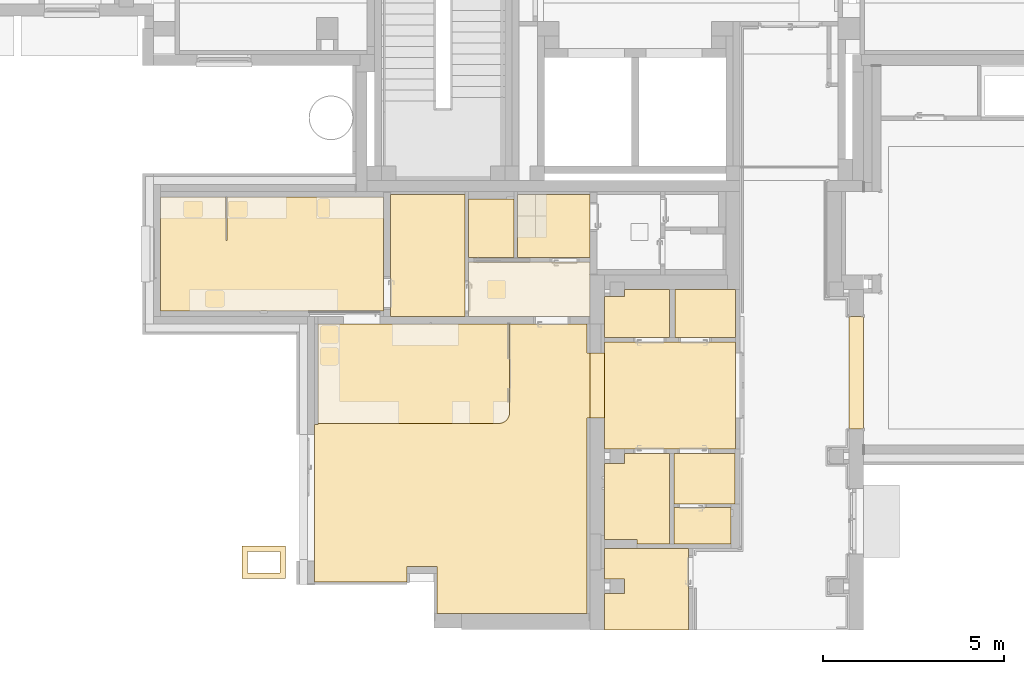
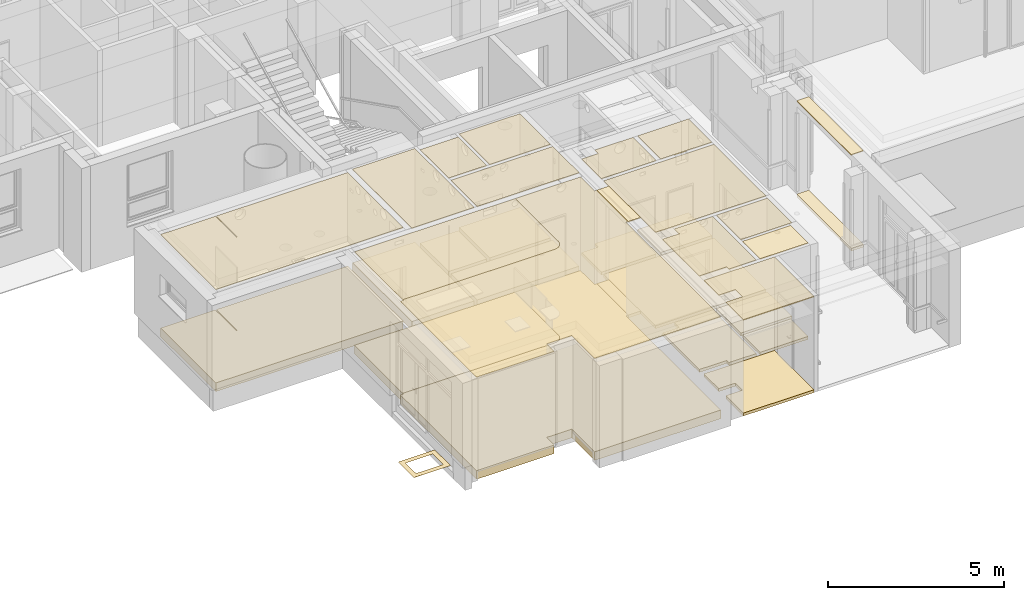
# One storey, part 128 of 140: 33 coverings.
"""IFC4 building model written with IfcOpenShell, lengths in metres."""

from ifc_helpers import new_model, entity, si_unit, converted_unit, derived_unit, frame, frame_2d, origin, origin_with_axes, place, context, subcontext, project, spatial, polyline, rectangle, outline, extrude, material, layer, layer_set, layer_usage, element, save


model = new_model("IFC4")

# Units and contexts
model_context = context("Model", 3, precision=1e-05, world=origin())
body_context = subcontext(model_context, "Body", "Model", "MODEL_VIEW")
ifc_project = project(units=[si_unit("LENGTHUNIT", "METRE"), si_unit("AREAUNIT", "SQUARE_METRE"), si_unit("VOLUMEUNIT", "CUBIC_METRE"), si_unit("MASSUNIT", "GRAM", prefix="KILO"), converted_unit("PLANEANGLEUNIT", "DEGREE", entity("IfcPlaneAngleMeasure", 0.0174532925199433), si_unit("PLANEANGLEUNIT", "RADIAN"), dimensions=[0, 0, 0, 0, 0, 0, 0]), derived_unit("THERMALTRANSMITTANCEUNIT", [(si_unit("POWERUNIT", "WATT"), 1), (si_unit("THERMODYNAMICTEMPERATUREUNIT", "KELVIN"), -1), (si_unit("LENGTHUNIT", "METRE"), -2)]), derived_unit("VOLUMETRICFLOWRATEUNIT", [(si_unit("LENGTHUNIT", "METRE"), 3), (converted_unit("TIMEUNIT", "hour", entity("IfcTimeMeasure", 3600.0), si_unit("TIMEUNIT", "SECOND"), dimensions=[0, 0, 1, 0, 0, 0, 0]), -1), (si_unit("LENGTHUNIT", "METRE"), -1)])], contexts=[model_context])

# Site, building, storey
site_placement = place(None, origin())
site = spatial("IfcSite", under=ifc_project, at=site_placement, Name="3. ASŘ", CompositionType="ELEMENT")
building_placement = place(site_placement, origin())
building = spatial("IfcBuilding", under=site, at=building_placement, Name="Pavilon C", CompositionType="ELEMENT")
storey_placement = place(building_placement, origin())
storey = spatial("IfcBuildingStorey", under=building, at=storey_placement, Name="Půdorys 1.NP", CompositionType="ELEMENT", Elevation=0.0)

# Covering
ifc_material_1 = material(Name="SANACE BETONU")
ifc_layer_1 = layer(ifc_material_1, 0.003)
ifc_layer_set_1 = layer_set([ifc_layer_1])
ifc_layer_usage_1 = layer_usage(ifc_layer_set_1, "AXIS3", "POSITIVE", 0.0)
covering_1_placement = place(storey_placement, frame((27.1981868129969, -15.1834392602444, 0.4)))
element("IfcCovering", 1, at=covering_1_placement, inside=storey, material=ifc_layer_usage_1, PredefinedType="FLOORING", context=body_context, shape_type="SweptSolid", body=[
    extrude(outline(polyline([(0.0, 0.0), (1.2, 0.0), (1.2, 0.9), (0.0, 0.9), (0.0, 0.0)]), holes=[polyline([(0.15, 0.75), (1.05, 0.75), (1.05, 0.15), (0.15, 0.15), (0.15, 0.75)])]), origin_with_axes(), (0.0, 0.0, 1.0), 0.003),
])

# Space
space_1_placement = place(storey_placement, frame((24.95, -7.80000000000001, -0.3)))
space_1 = spatial("IfcSpace", under=storey, at=space_1_placement, Name="K1.09", CompositionType="ELEMENT")

# Coverings
ifc_material_2 = material()
ifc_layer_2 = layer(ifc_material_2, 0.285)
ifc_material_3 = material(Name="KERAMICKÁ DLAŽBA")
ifc_layer_3 = layer(ifc_material_3, 0.015)
ifc_layer_set_2 = layer_set([ifc_layer_2, ifc_layer_3])
ifc_layer_usage_2 = layer_usage(ifc_layer_set_2, "AXIS3", "POSITIVE", 0.0)
covering_2_placement = place(space_1_placement, origin())
element("IfcCovering", 2, at=covering_2_placement, inside=space_1, material=ifc_layer_usage_2, PredefinedType="FLOORING", context=body_context, shape_type="SweptSolid", body=[
    extrude(outline(polyline([(1.8, 3.14999999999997), (0.0, 3.15000000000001), (3.63797880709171e-15, 0.0), (6.15, 0.0), (6.15, 3.14999999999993), (1.832, 3.14999999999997), (1.832, 1.94999999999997), (1.8, 1.94999999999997), (1.8, 3.14999999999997)])), origin_with_axes(), (0.0, 0.0, 1.0), 0.3),
])
ifc_material_4 = material(Name="RASTR 1")
ifc_layer_4 = layer(ifc_material_4, 0.03)
ifc_layer_set_3 = layer_set([ifc_layer_4])
ifc_layer_usage_3 = layer_usage(ifc_layer_set_3, "AXIS3", "POSITIVE", 0.0)
covering_3_placement = place(space_1_placement, frame((0.0, 0.0, 3.55)))
element("IfcCovering", 3, at=covering_3_placement, inside=space_1, material=ifc_layer_usage_3, PredefinedType="CEILING", context=body_context, shape_type="SweptSolid", body=[
    extrude(outline(polyline([(0.0, 0.0), (1.8, 3.45607986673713e-14), (1.8, 1.20000000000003), (1.832, 1.20000000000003), (1.832, 3.45607986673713e-14), (6.15, 8.09450284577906e-14), (6.15, 3.15000000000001), (3.63797880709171e-15, 3.15000000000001), (0.0, 0.0)])), frame((0.0, 3.15000000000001, 0.0), z_axis=(0.0, 0.0, -1.0), x_axis=(1.0, 0.0, 0.0)), (0.0, 0.0, 1.0), 0.03),
])

# Space
space_2_placement = place(storey_placement, frame((31.3, -7.94999999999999, -0.3)))
space_2 = spatial("IfcSpace", under=storey, at=space_2_placement, Name="K1.10", CompositionType="ELEMENT")

# Coverings
ifc_material_5 = material()
ifc_layer_5 = layer(ifc_material_5, 0.285)
ifc_material_6 = material(Name="KERAMICKÁ DLAŽBA")
ifc_layer_6 = layer(ifc_material_6, 0.015)
ifc_layer_set_4 = layer_set([ifc_layer_5, ifc_layer_6])
ifc_layer_usage_4 = layer_usage(ifc_layer_set_4, "AXIS3", "POSITIVE", 0.0)
covering_4_placement = place(space_2_placement, origin())
element("IfcCovering", 4, at=covering_4_placement, inside=space_2, material=ifc_layer_usage_4, PredefinedType="FLOORING", context=body_context, shape_type="SweptSolid", body=[
    extrude(rectangle(XDim=2.05000000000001, YDim=3.3749999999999, at=frame_2d((-1.025, -1.68749999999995), x_axis=(-1.0, 0.0))), frame((2.05000000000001, 3.3749999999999, 0.0), z_axis=(0.0, 0.0, 1.0), x_axis=(1.0, 0.0, 0.0)), (0.0, 0.0, 1.0), 0.3),
])
ifc_material_7 = material(Name="RASTR 2")
ifc_layer_7 = layer(ifc_material_7, 0.03)
ifc_layer_set_5 = layer_set([ifc_layer_7])
ifc_layer_usage_5 = layer_usage(ifc_layer_set_5, "AXIS3", "POSITIVE", 0.0)
covering_5_placement = place(space_2_placement, frame((0.0, 0.0, 3.55)))
element("IfcCovering", 5, at=covering_5_placement, inside=space_2, material=ifc_layer_usage_5, PredefinedType="CEILING", context=body_context, shape_type="SweptSolid", body=[
    extrude(rectangle(XDim=2.05000000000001, YDim=3.3749999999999, at=frame_2d((1.025, 1.68749999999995), x_axis=(1.0, 0.0))), frame((0.0, 3.3749999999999, 0.0), z_axis=(0.0, 0.0, -1.0), x_axis=(1.0, 0.0, 0.0)), (0.0, 0.0, 1.0), 0.03),
])

# Space
space_3_placement = place(storey_placement, frame((33.45, -6.325, -0.3)))
space_3 = spatial("IfcSpace", under=storey, at=space_3_placement, Name="K1.12", CompositionType="ELEMENT")

# Coverings
ifc_material_8 = material()
ifc_layer_8 = layer(ifc_material_8, 0.285)
ifc_material_9 = material(Name="KERAMICKÁ DLAŽBA")
ifc_layer_9 = layer(ifc_material_9, 0.015)
ifc_layer_set_6 = layer_set([ifc_layer_8, ifc_layer_9])
ifc_layer_usage_6 = layer_usage(ifc_layer_set_6, "AXIS3", "POSITIVE", 0.0)
covering_6_placement = place(space_3_placement, origin())
element("IfcCovering", 6, at=covering_6_placement, inside=space_3, material=ifc_layer_usage_6, PredefinedType="FLOORING", context=body_context, shape_type="SweptSolid", body=[
    extrude(rectangle(XDim=1.25, YDim=1.62500000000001, at=frame_2d((-0.625, -0.812500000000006), x_axis=(-1.0, 0.0))), frame((1.25, 1.62500000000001, 0.0), z_axis=(0.0, 0.0, 1.0), x_axis=(1.0, 0.0, 0.0)), (0.0, 0.0, 1.0), 0.3),
])
ifc_material_10 = material(Name="RASTR 2")
ifc_layer_10 = layer(ifc_material_10, 0.03)
ifc_layer_set_7 = layer_set([ifc_layer_10])
ifc_layer_usage_7 = layer_usage(ifc_layer_set_7, "AXIS3", "POSITIVE", 0.0)
covering_7_placement = place(space_3_placement, frame((0.0, 0.0, 3.55)))
element("IfcCovering", 7, at=covering_7_placement, inside=space_3, material=ifc_layer_usage_7, PredefinedType="CEILING", context=body_context, shape_type="SweptSolid", body=[
    extrude(rectangle(XDim=1.25, YDim=1.62500000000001, at=frame_2d((0.625, 0.812500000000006), x_axis=(1.0, 0.0))), frame((0.0, 1.62500000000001, 0.0), z_axis=(0.0, 0.0, -1.0), x_axis=(1.0, 0.0, 0.0)), (0.0, 0.0, 1.0), 0.03),
])

# Space
space_4_placement = place(storey_placement, frame((33.45, -7.95, -0.3)))
space_4 = spatial("IfcSpace", under=storey, at=space_4_placement, Name="K1.11", CompositionType="ELEMENT")

# Coverings
ifc_material_11 = material()
ifc_layer_11 = layer(ifc_material_11, 0.285)
ifc_material_12 = material(Name="KERAMICKÁ DLAŽBA")
ifc_layer_12 = layer(ifc_material_12, 0.015)
ifc_layer_set_8 = layer_set([ifc_layer_11, ifc_layer_12])
ifc_layer_usage_8 = layer_usage(ifc_layer_set_8, "AXIS3", "POSITIVE", 0.0)
covering_8_placement = place(space_4_placement, origin())
element("IfcCovering", 8, at=covering_8_placement, inside=space_4, material=ifc_layer_usage_8, PredefinedType="FLOORING", context=body_context, shape_type="SweptSolid", body=[
    extrude(rectangle(XDim=3.35, YDim=1.5, at=frame_2d((-1.675, -0.75), x_axis=(-1.0, 0.0))), frame((3.35, 1.5, 0.0), z_axis=(0.0, 0.0, 1.0), x_axis=(1.0, 0.0, 0.0)), (0.0, 0.0, 1.0), 0.3),
])
ifc_material_13 = material(Name="RASTR 2")
ifc_layer_13 = layer(ifc_material_13, 0.03)
ifc_layer_set_9 = layer_set([ifc_layer_13])
ifc_layer_usage_9 = layer_usage(ifc_layer_set_9, "AXIS3", "POSITIVE", 0.0)
covering_9_placement = place(space_4_placement, frame((0.0, 0.0, 3.55)))
element("IfcCovering", 9, at=covering_9_placement, inside=space_4, material=ifc_layer_usage_9, PredefinedType="CEILING", context=body_context, shape_type="SweptSolid", body=[
    extrude(rectangle(XDim=3.35, YDim=1.5, at=frame_2d((1.675, 0.75), x_axis=(1.0, 0.0))), frame((0.0, 1.5, 0.0), z_axis=(0.0, 0.0, -1.0), x_axis=(1.0, 0.0, 0.0)), (0.0, 0.0, 1.0), 0.03),
])

# Space
space_5_placement = place(storey_placement, frame((34.8, -6.325, -0.3)))
space_5 = spatial("IfcSpace", under=storey, at=space_5_placement, Name="K1.13", CompositionType="ELEMENT")

# Coverings
ifc_material_14 = material()
ifc_layer_14 = layer(ifc_material_14, 0.285)
ifc_material_15 = material(Name="KERAMICKÁ DLAŽBA")
ifc_layer_15 = layer(ifc_material_15, 0.015)
ifc_layer_set_10 = layer_set([ifc_layer_14, ifc_layer_15])
ifc_layer_usage_10 = layer_usage(ifc_layer_set_10, "AXIS3", "POSITIVE", 0.0)
covering_10_placement = place(space_5_placement, origin())
element("IfcCovering", 10, at=covering_10_placement, inside=space_5, material=ifc_layer_usage_10, PredefinedType="FLOORING", context=body_context, shape_type="SweptSolid", body=[
    extrude(rectangle(XDim=2.0, YDim=1.75, at=frame_2d((-1.0, -0.874999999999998), x_axis=(-1.0, 0.0))), frame((2.0, 1.75, 0.0), z_axis=(0.0, 0.0, 1.0), x_axis=(1.0, 0.0, 0.0)), (0.0, 0.0, 1.0), 0.3),
])
ifc_material_16 = material(Name="RASTR 2")
ifc_layer_16 = layer(ifc_material_16, 0.03)
ifc_layer_set_11 = layer_set([ifc_layer_16])
ifc_layer_usage_11 = layer_usage(ifc_layer_set_11, "AXIS3", "POSITIVE", 0.0)
covering_11_placement = place(space_5_placement, frame((0.0, 0.0, 3.55)))
element("IfcCovering", 11, at=covering_11_placement, inside=space_5, material=ifc_layer_usage_11, PredefinedType="CEILING", context=body_context, shape_type="SweptSolid", body=[
    extrude(rectangle(XDim=2.0, YDim=1.75, at=frame_2d((1.0, 0.874999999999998), x_axis=(1.0, 0.0))), frame((0.0, 1.75, 0.0), z_axis=(0.0, 0.0, -1.0), x_axis=(1.0, 0.0, 0.0)), (0.0, 0.0, 1.0), 0.03),
])

# Space
space_6_placement = place(storey_placement, frame((37.2, -11.6, -0.1)))
space_6 = spatial("IfcSpace", under=storey, at=space_6_placement, Name="K1.01", CompositionType="ELEMENT")

# Coverings
ifc_material_17 = material()
ifc_layer_17 = layer(ifc_material_17, 0.095)
ifc_material_18 = material(Name="AKUSTICKÝ VINYL")
ifc_layer_18 = layer(ifc_material_18, 0.005)
ifc_layer_set_12 = layer_set([ifc_layer_17, ifc_layer_18])
ifc_layer_usage_12 = layer_usage(ifc_layer_set_12, "AXIS3", "POSITIVE", 0.0)
covering_12_placement = place(space_6_placement, frame((0.0, -1.81898940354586e-15, 0.0)))
element("IfcCovering", 12, at=covering_12_placement, inside=space_6, material=ifc_layer_usage_12, PredefinedType="FLOORING", context=body_context, shape_type="SweptSolid", body=[
    extrude(rectangle(XDim=3.625, YDim=2.95000000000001, at=frame_2d((-1.8125, -1.475), x_axis=(-1.0, 0.0))), frame((3.625, 2.95000000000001, 0.0), z_axis=(0.0, 0.0, 1.0), x_axis=(1.0, 0.0, 0.0)), (0.0, 0.0, 1.0), 0.1),
])
ifc_material_19 = material(Name="MALBA")
ifc_layer_19 = layer(ifc_material_19, 0.005)
ifc_material_20 = material(Name="SDK PODHLED")
ifc_layer_20 = layer(ifc_material_20, 0.025)
ifc_layer_set_13 = layer_set([ifc_layer_19, ifc_layer_20])
ifc_layer_usage_13 = layer_usage(ifc_layer_set_13, "AXIS3", "POSITIVE", 0.0)
covering_13_placement = place(space_6_placement, frame((0.0, -1.81898940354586e-15, 3.35)))
element("IfcCovering", 13, at=covering_13_placement, inside=space_6, material=ifc_layer_usage_13, PredefinedType="CEILING", context=body_context, shape_type="SweptSolid", body=[
    extrude(rectangle(XDim=3.625, YDim=2.95000000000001, at=frame_2d((1.8125, 1.475), x_axis=(1.0, 0.0))), frame((0.0, 2.95000000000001, 0.0), z_axis=(0.0, 0.0, -1.0), x_axis=(1.0, 0.0, 0.0)), (0.0, 0.0, 1.0), 0.03),
])

# Space
space_7_placement = place(storey_placement, frame((39.15, -8.525, -0.1)))
space_7 = spatial("IfcSpace", under=storey, at=space_7_placement, Name="K1.02", CompositionType="ELEMENT")

# Coverings
ifc_material_21 = material()
ifc_layer_21 = layer(ifc_material_21, 0.085)
ifc_material_22 = material(Name="KERAMICKÁ DLAŽBA")
ifc_layer_22 = layer(ifc_material_22, 0.015)
ifc_layer_set_14 = layer_set([ifc_layer_21, ifc_layer_22])
ifc_layer_usage_14 = layer_usage(ifc_layer_set_14, "AXIS3", "POSITIVE", 0.0)
covering_14_placement = place(space_7_placement, frame((-7.27595761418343e-15, 0.0, 0.0)))
element("IfcCovering", 14, at=covering_14_placement, inside=space_7, material=ifc_layer_usage_14, PredefinedType="FLOORING", context=body_context, shape_type="SweptSolid", body=[
    extrude(rectangle(XDim=1.67499999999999, YDim=1.325, at=frame_2d((-0.837499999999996, -0.662499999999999), x_axis=(-1.0, 0.0))), frame((1.675, 1.325, 0.0), z_axis=(0.0, 0.0, 1.0), x_axis=(1.0, 0.0, 0.0)), (0.0, 0.0, 1.0), 0.1),
])
ifc_material_23 = material(Name="RASTR 2")
ifc_layer_23 = layer(ifc_material_23, 0.03)
ifc_layer_set_15 = layer_set([ifc_layer_23])
ifc_layer_usage_15 = layer_usage(ifc_layer_set_15, "AXIS3", "POSITIVE", 0.0)
covering_15_placement = place(space_7_placement, frame((-7.27595761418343e-15, 0.0, 3.35)))
element("IfcCovering", 15, at=covering_15_placement, inside=space_7, material=ifc_layer_usage_15, PredefinedType="CEILING", context=body_context, shape_type="SweptSolid", body=[
    extrude(rectangle(XDim=1.67499999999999, YDim=1.325, at=frame_2d((0.837499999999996, 0.662499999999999), x_axis=(1.0, 0.0))), frame((7.27595761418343e-15, 1.325, 0.0), z_axis=(0.0, 0.0, -1.0), x_axis=(1.0, 0.0, 0.0)), (0.0, 0.0, 1.0), 0.03),
])

# Space
space_8_placement = place(storey_placement, frame((37.2, -8.525, -0.1)))
space_8 = spatial("IfcSpace", under=storey, at=space_8_placement, Name="K1.03", CompositionType="ELEMENT")

# Coverings
ifc_material_24 = material()
ifc_layer_24 = layer(ifc_material_24, 0.085)
ifc_material_25 = material(Name="KERAMICKÁ DLAŽBA")
ifc_layer_25 = layer(ifc_material_25, 0.015)
ifc_layer_set_16 = layer_set([ifc_layer_24, ifc_layer_25])
ifc_layer_usage_16 = layer_usage(ifc_layer_set_16, "AXIS3", "POSITIVE", 0.0)
covering_16_placement = place(space_8_placement, origin())
element("IfcCovering", 16, at=covering_16_placement, inside=space_8, material=ifc_layer_usage_16, PredefinedType="FLOORING", context=body_context, shape_type="SweptSolid", body=[
    extrude(outline(polyline([(0.55, 1.125), (0.0, 1.125), (0.0, 0.0), (1.80000000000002, 0.0), (1.80000000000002, 1.325), (0.55, 1.325), (0.55, 1.125)])), origin_with_axes(), (0.0, 0.0, 1.0), 0.1),
])
ifc_material_26 = material(Name="RASTR 2")
ifc_layer_26 = layer(ifc_material_26, 0.03)
ifc_layer_set_17 = layer_set([ifc_layer_26])
ifc_layer_usage_17 = layer_usage(ifc_layer_set_17, "AXIS3", "POSITIVE", 0.0)
covering_17_placement = place(space_8_placement, frame((0.0, 0.0, 3.35)))
element("IfcCovering", 17, at=covering_17_placement, inside=space_8, material=ifc_layer_usage_17, PredefinedType="CEILING", context=body_context, shape_type="SweptSolid", body=[
    extrude(outline(polyline([(0.0, 0.200000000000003), (0.55, 0.200000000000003), (0.55, 0.0), (1.80000000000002, 9.09494701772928e-16), (1.80000000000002, 1.325), (0.0, 1.325), (0.0, 0.200000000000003)])), frame((0.0, 1.325, 0.0), z_axis=(0.0, 0.0, -1.0), x_axis=(1.0, 0.0, 0.0)), (0.0, 0.0, 1.0), 0.03),
])

# Space
space_9_placement = place(storey_placement, frame((37.2, -16.6, -0.1)))
space_9 = spatial("IfcSpace", under=storey, at=space_9_placement, Name="K1.06", CompositionType="ELEMENT")

# Coverings
ifc_material_27 = material()
ifc_layer_27 = layer(ifc_material_27, 0.095)
ifc_material_28 = material(Name="PŘÍRODNÍ LINOLEUM")
ifc_layer_28 = layer(ifc_material_28, 0.005)
ifc_layer_set_18 = layer_set([ifc_layer_27, ifc_layer_28])
ifc_layer_usage_18 = layer_usage(ifc_layer_set_18, "AXIS3", "POSITIVE", 0.0)
covering_18_placement = place(space_9_placement, origin())
element("IfcCovering", 18, at=covering_18_placement, inside=space_9, material=ifc_layer_usage_18, PredefinedType="FLOORING", context=body_context, shape_type="SweptSolid", body=[
    extrude(outline(polyline([(0.0, 0.0), (2.325, 0.0), (2.325, 2.24999999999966), (0.0, 2.24999999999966), (0.0, 1.4), (0.55, 1.4), (0.55, 0.999999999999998), (0.0, 0.999999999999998), (0.0, 0.0)])), origin_with_axes(), (0.0, 0.0, 1.0), 0.1),
])
ifc_material_29 = material(Name="RASTR 2")
ifc_layer_29 = layer(ifc_material_29, 0.03)
ifc_layer_set_19 = layer_set([ifc_layer_29])
ifc_layer_usage_19 = layer_usage(ifc_layer_set_19, "AXIS3", "POSITIVE", 0.0)
covering_19_placement = place(space_9_placement, frame((0.0, 0.0, 3.35)))
element("IfcCovering", 19, at=covering_19_placement, inside=space_9, material=ifc_layer_usage_19, PredefinedType="CEILING", context=body_context, shape_type="SweptSolid", body=[
    extrude(outline(polyline([(2.325, 2.24999999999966), (0.0, 2.24999999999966), (0.0, 1.24999999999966), (0.55, 1.24999999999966), (0.55, 0.849999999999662), (0.0, 0.849999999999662), (0.0, 3.63797880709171e-15), (2.325, 0.0), (2.325, 2.24999999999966)])), frame((0.0, 2.24999999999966, 0.0), z_axis=(0.0, 0.0, -1.0), x_axis=(1.0, 0.0, 0.0)), (0.0, 0.0, 1.0), 0.03),
])

# Space
space_10_placement = place(storey_placement, frame((39.125, -13.125, -0.1)))
space_10 = spatial("IfcSpace", under=storey, at=space_10_placement, Name="K1.04", CompositionType="ELEMENT")

# Coverings
ifc_material_30 = material()
ifc_layer_30 = layer(ifc_material_30, 0.085)
ifc_material_31 = material(Name="KERAMICKÁ DLAŽBA")
ifc_layer_31 = layer(ifc_material_31, 0.015)
ifc_layer_set_20 = layer_set([ifc_layer_30, ifc_layer_31])
ifc_layer_usage_20 = layer_usage(ifc_layer_set_20, "AXIS3", "POSITIVE", 0.0)
covering_20_placement = place(space_10_placement, origin())
element("IfcCovering", 20, at=covering_20_placement, inside=space_10, material=ifc_layer_usage_20, PredefinedType="FLOORING", context=body_context, shape_type="SweptSolid", body=[
    extrude(rectangle(XDim=1.67499999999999, YDim=1.40000000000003, at=frame_2d((-0.837499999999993, -0.700000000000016), x_axis=(-1.0, 0.0))), frame((1.67499999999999, 1.40000000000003, 0.0), z_axis=(0.0, 0.0, 1.0), x_axis=(1.0, 0.0, 0.0)), (0.0, 0.0, 1.0), 0.1),
])
ifc_material_32 = material(Name="MALBA")
ifc_layer_32 = layer(ifc_material_32, 0.005)
ifc_material_33 = material(Name="SDK PODHLED")
ifc_layer_33 = layer(ifc_material_33, 0.025)
ifc_layer_set_21 = layer_set([ifc_layer_32, ifc_layer_33])
ifc_layer_usage_21 = layer_usage(ifc_layer_set_21, "AXIS3", "POSITIVE", 0.0)
covering_21_placement = place(space_10_placement, frame((0.0, 0.0, 3.35)))
element("IfcCovering", 21, at=covering_21_placement, inside=space_10, material=ifc_layer_usage_21, PredefinedType="CEILING", context=body_context, shape_type="SweptSolid", body=[
    extrude(rectangle(XDim=1.67499999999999, YDim=1.40000000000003, at=frame_2d((0.837499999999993, 0.700000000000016), x_axis=(1.0, 0.0))), frame((0.0, 1.40000000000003, 0.0), z_axis=(0.0, 0.0, -1.0), x_axis=(1.0, 0.0, 0.0)), (0.0, 0.0, 1.0), 0.03),
])

# Space
space_11_placement = place(storey_placement, frame((37.2, -14.2250000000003, -0.1)))
space_11 = spatial("IfcSpace", under=storey, at=space_11_placement, Name="K1.05", CompositionType="ELEMENT")

# Coverings
ifc_material_34 = material()
ifc_layer_34 = layer(ifc_material_34, 0.085)
ifc_material_35 = material(Name="KERAMICKÁ DLAŽBA")
ifc_layer_35 = layer(ifc_material_35, 0.015)
ifc_layer_set_22 = layer_set([ifc_layer_34, ifc_layer_35])
ifc_layer_usage_22 = layer_usage(ifc_layer_set_22, "AXIS3", "POSITIVE", 0.0)
covering_22_placement = place(space_11_placement, origin())
element("IfcCovering", 22, at=covering_22_placement, inside=space_11, material=ifc_layer_usage_22, PredefinedType="FLOORING", context=body_context, shape_type="SweptSolid", body=[
    extrude(outline(polyline([(0.9, 0.125000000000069), (0.9, 0.0), (1.8, 0.0), (1.80000000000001, 2.50000000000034), (0.55, 2.50000000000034), (0.55, 2.22500000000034), (0.0, 2.22500000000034), (0.0, 0.125), (0.9, 0.125000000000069)])), origin_with_axes(), (0.0, 0.0, 1.0), 0.1),
])
ifc_material_36 = material(Name="MALBA")
ifc_layer_36 = layer(ifc_material_36, 0.005)
ifc_material_37 = material(Name="SDK PODHLED")
ifc_layer_37 = layer(ifc_material_37, 0.025)
ifc_layer_set_23 = layer_set([ifc_layer_36, ifc_layer_37])
ifc_layer_usage_23 = layer_usage(ifc_layer_set_23, "AXIS3", "POSITIVE", 0.0)
covering_23_placement = place(space_11_placement, frame((0.0, 0.0, 3.35)))
element("IfcCovering", 23, at=covering_23_placement, inside=space_11, material=ifc_layer_usage_23, PredefinedType="CEILING", context=body_context, shape_type="SweptSolid", body=[
    extrude(outline(polyline([(0.9, 2.50000000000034), (0.9, 2.37500000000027), (0.0, 2.37500000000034), (0.0, 0.275), (0.55, 0.275), (0.55, 0.0), (1.80000000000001, 0.0), (1.8, 2.50000000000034), (0.9, 2.50000000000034)])), frame((0.0, 2.50000000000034, 0.0), z_axis=(0.0, 0.0, -1.0), x_axis=(1.0, 0.0, 0.0)), (0.0, 0.0, 1.0), 0.03),
])

# Space
space_12_placement = place(storey_placement, frame((39.125, -14.2250000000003, -0.1)))
space_12 = spatial("IfcSpace", under=storey, at=space_12_placement, Name="K1.04a", CompositionType="ELEMENT")

# Coverings
ifc_material_38 = material()
ifc_layer_38 = layer(ifc_material_38, 0.085)
ifc_material_39 = material(Name="KERAMICKÁ DLAŽBA")
ifc_layer_39 = layer(ifc_material_39, 0.015)
ifc_layer_set_24 = layer_set([ifc_layer_38, ifc_layer_39])
ifc_layer_usage_24 = layer_usage(ifc_layer_set_24, "AXIS3", "POSITIVE", 0.0)
covering_24_placement = place(space_12_placement, frame((-7.27595761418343e-15, 0.0, 0.0)))
element("IfcCovering", 24, at=covering_24_placement, inside=space_12, material=ifc_layer_usage_24, PredefinedType="FLOORING", context=body_context, shape_type="SweptSolid", body=[
    extrude(rectangle(XDim=1.57499999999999, YDim=1.00000000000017, at=frame_2d((-0.787499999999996, -0.500000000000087), x_axis=(-1.0, 0.0))), frame((1.575, 1.00000000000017, 0.0), z_axis=(0.0, 0.0, 1.0), x_axis=(1.0, 0.0, 0.0)), (0.0, 0.0, 1.0), 0.1),
])
ifc_material_40 = material(Name="MALBA")
ifc_layer_40 = layer(ifc_material_40, 0.005)
ifc_material_41 = material(Name="SDK PODHLED")
ifc_layer_41 = layer(ifc_material_41, 0.025)
ifc_layer_set_25 = layer_set([ifc_layer_40, ifc_layer_41])
ifc_layer_usage_25 = layer_usage(ifc_layer_set_25, "AXIS3", "POSITIVE", 0.0)
covering_25_placement = place(space_12_placement, frame((-7.27595761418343e-15, 0.0, 3.35)))
element("IfcCovering", 25, at=covering_25_placement, inside=space_12, material=ifc_layer_usage_25, PredefinedType="CEILING", context=body_context, shape_type="SweptSolid", body=[
    extrude(rectangle(XDim=1.57499999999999, YDim=1.00000000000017, at=frame_2d((0.787499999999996, 0.500000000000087), x_axis=(1.0, 0.0))), frame((7.27595761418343e-15, 1.00000000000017, 0.0), z_axis=(0.0, 0.0, -1.0), x_axis=(1.0, 0.0, 0.0)), (0.0, 0.0, 1.0), 0.03),
])

# Space
space_13_placement = place(storey_placement, frame((29.3, -10.9, -0.3)))
space_13 = spatial("IfcSpace", under=storey, at=space_13_placement, Name="K1.08", CompositionType="ELEMENT")

# Coverings
ifc_material_42 = material()
ifc_layer_42 = layer(ifc_material_42, 0.295)
ifc_material_43 = material(Name="AKUSTICKÝ VINYL")
ifc_layer_43 = layer(ifc_material_43, 0.005)
ifc_layer_set_26 = layer_set([ifc_layer_42, ifc_layer_43])
ifc_layer_usage_26 = layer_usage(ifc_layer_set_26, "AXIS3", "POSITIVE", 0.0)
covering_26_placement = place(space_13_placement, origin())
element("IfcCovering", 26, at=covering_26_placement, inside=space_13, material=ifc_layer_usage_26, PredefinedType="FLOORING", context=body_context, shape_type="SweptSolid", body=[
    extrude(outline(polyline([(5.28199999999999, 0.283446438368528), (5.28199999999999, 2.75), (0.0, 2.75), (0.0, 0.0), (4.98577380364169, 0.0), (5.00677380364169, 0.00102465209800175), (5.03137837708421, 0.00409160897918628), (5.05564564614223, 0.00917992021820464), (5.0794098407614, 0.0162548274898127), (5.10250862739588, 0.0252680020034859), (5.12478421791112, 0.0361578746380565), (5.14608444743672, 0.0488500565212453), (5.16626381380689, 0.0632578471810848), (5.18518447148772, 0.079282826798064), (5.20271717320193, 0.0968155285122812), (5.21874215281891, 0.115736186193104), (5.23314994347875, 0.135915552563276), (5.24584212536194, 0.157215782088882), (5.25673199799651, 0.179491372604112), (5.26574517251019, 0.202590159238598), (5.27282007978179, 0.226354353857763), (5.27790839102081, 0.250621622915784), (5.28199999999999, 0.283446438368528)])), origin_with_axes(), (0.0, 0.0, 1.0), 0.3),
    extrude(outline(polyline([(0.0, 0.0), (0.000238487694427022, 0.0), (0.00134880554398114, 0.000621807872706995), (0.0, 0.0)])), frame((5.13319200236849, 0.0, 0.0), z_axis=(0.0, 0.0, 1.0), x_axis=(1.0, 0.0, 0.0)), (0.0, 0.0, 1.0), 0.3),
    extrude(outline(polyline([(0.000621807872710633, 0.00111031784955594), (0.000621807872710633, 0.00134880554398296), (0.0, 0.0), (0.000621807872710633, 0.00111031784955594)])), frame((5.28137819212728, 0.147459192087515, 0.0), z_axis=(0.0, 0.0, 1.0), x_axis=(1.0, 0.0, 0.0)), (0.0, 0.0, 1.0), 0.3),
])
ifc_material_44 = material(Name="MALBA")
ifc_layer_44 = layer(ifc_material_44, 0.005)
ifc_material_45 = material(Name="SDK PODHLED")
ifc_layer_45 = layer(ifc_material_45, 0.025)
ifc_layer_set_27 = layer_set([ifc_layer_44, ifc_layer_45])
ifc_layer_usage_27 = layer_usage(ifc_layer_set_27, "AXIS3", "POSITIVE", 0.0)
covering_27_placement = place(space_13_placement, frame((0.0, 0.0, 3.55)))
element("IfcCovering", 27, at=covering_27_placement, inside=space_13, material=ifc_layer_usage_27, PredefinedType="CEILING", context=body_context, shape_type="SweptSolid", body=[
    extrude(outline(polyline([(0.0, 0.000621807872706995), (0.00134880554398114, 0.0), (0.000238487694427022, 0.000621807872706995), (0.0, 0.000621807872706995)])), frame((5.13319200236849, 0.000621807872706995, 0.0), z_axis=(0.0, 0.0, -1.0), x_axis=(1.0, 0.0, 0.0)), (0.0, 0.0, 1.0), 0.03),
    extrude(outline(polyline([(5.28199999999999, 2.46655356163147), (5.27790839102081, 2.49937837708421), (5.27282007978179, 2.52364564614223), (5.26574517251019, 2.5474098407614), (5.25673199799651, 2.57050862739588), (5.24584212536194, 2.59278421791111), (5.23314994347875, 2.61408444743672), (5.21874215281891, 2.63426381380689), (5.20271717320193, 2.65318447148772), (5.18518447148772, 2.67071717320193), (5.16626381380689, 2.68674215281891), (5.14608444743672, 2.70114994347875), (5.12478421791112, 2.71384212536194), (5.10250862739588, 2.72473199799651), (5.0794098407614, 2.73374517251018), (5.05564564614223, 2.74082007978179), (5.03137837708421, 2.74590839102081), (5.00677380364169, 2.74897534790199), (4.98577380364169, 2.75), (0.0, 2.75), (0.0, 0.0), (5.28199999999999, 0.0), (5.28199999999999, 2.46655356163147)])), frame((0.0, 2.75, 0.0), z_axis=(0.0, 0.0, -1.0), x_axis=(1.0, 0.0, 0.0)), (0.0, 0.0, 1.0), 0.03),
    extrude(outline(polyline([(0.000621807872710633, 0.000238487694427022), (0.0, 0.00134880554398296), (0.000621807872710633, 0.0), (0.000621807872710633, 0.000238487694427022)])), frame((5.28137819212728, 0.148807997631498, 0.0), z_axis=(0.0, 0.0, -1.0), x_axis=(1.0, 0.0, 0.0)), (0.0, 0.0, 1.0), 0.03),
])

# Space
space_14_placement = place(storey_placement, frame((29.2, -16.145, -0.3)))
space_14 = spatial("IfcSpace", under=storey, at=space_14_placement, Name="K1.07", CompositionType="ELEMENT")

# Coverings
ifc_material_46 = material()
ifc_layer_46 = layer(ifc_material_46, 0.295)
ifc_material_47 = material(Name="AKUSTICKÝ VINYL")
ifc_layer_47 = layer(ifc_material_47, 0.005)
ifc_layer_set_28 = layer_set([ifc_layer_46, ifc_layer_47])
ifc_layer_usage_28 = layer_usage(ifc_layer_set_28, "AXIS3", "POSITIVE", 0.0)
covering_28_placement = place(space_14_placement, origin())
element("IfcCovering", 28, at=covering_28_placement, inside=space_14, material=ifc_layer_usage_28, PredefinedType="FLOORING", context=body_context, shape_type="SweptSolid", body=[
    extrude(outline(polyline([(7.6, 5.39500000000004), (7.6, 7.19500000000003), (7.52500000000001, 7.19500000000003), (7.52500000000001, 7.99500000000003), (5.38199999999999, 7.99500000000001), (5.38199999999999, 5.52844643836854), (5.37790839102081, 5.49562162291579), (5.37282007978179, 5.47135435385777), (5.36574517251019, 5.44759015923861), (5.35673199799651, 5.42449137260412), (5.34584212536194, 5.40221578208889), (5.33314994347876, 5.38091555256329), (5.31874215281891, 5.36073618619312), (5.30271717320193, 5.34181552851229), (5.28518447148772, 5.32428282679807), (5.26626381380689, 5.3082578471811), (5.24608444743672, 5.29385005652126), (5.22478421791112, 5.28115787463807), (5.20250862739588, 5.2702680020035), (5.1794098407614, 5.26125482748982), (5.15564564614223, 5.25417992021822), (5.13137837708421, 5.2490916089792), (5.10677380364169, 5.24602465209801), (5.08577380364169, 5.24500000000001), (0.1, 5.24500000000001), (0.1, 5.20900000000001), (0.0, 5.20900000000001), (0.0, 0.870000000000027), (2.55, 0.870000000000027), (2.55, 1.30000000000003), (3.375, 1.30000000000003), (3.375, 0.0), (7.52500000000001, 3.45607986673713e-14), (7.52500000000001, 5.39500000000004), (7.6, 5.39500000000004)]), holes=[polyline([(5.38137819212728, 5.39245919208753), (5.38199999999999, 5.39380799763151), (5.38199999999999, 5.39356950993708), (5.38137819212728, 5.39245919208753)]), polyline([(5.23319200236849, 5.24500000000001), (5.23454080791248, 5.24562180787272), (5.23343049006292, 5.24500000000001), (5.23319200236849, 5.24500000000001)])]), origin_with_axes(), (0.0, 0.0, 1.0), 0.3),
])
ifc_material_48 = material(Name="MALBA")
ifc_layer_48 = layer(ifc_material_48, 0.005)
ifc_material_49 = material(Name="SDK PODHLED")
ifc_layer_49 = layer(ifc_material_49, 0.025)
ifc_layer_set_29 = layer_set([ifc_layer_48, ifc_layer_49])
ifc_layer_usage_29 = layer_usage(ifc_layer_set_29, "AXIS3", "POSITIVE", 0.0)
covering_29_placement = place(space_14_placement, frame((0.0, 0.0, 3.55)))
element("IfcCovering", 29, at=covering_29_placement, inside=space_14, material=ifc_layer_usage_29, PredefinedType="CEILING", context=body_context, shape_type="SweptSolid", body=[
    extrude(outline(polyline([(7.6, 2.6), (7.52500000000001, 2.6), (7.52500000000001, 7.995), (3.375, 7.99500000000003), (3.375, 6.69500000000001), (2.55, 6.69500000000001), (2.55, 7.12500000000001), (0.0, 7.12500000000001), (0.0, 2.78600000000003), (0.1, 2.78600000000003), (0.1, 2.75000000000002), (5.08577380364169, 2.75000000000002), (5.10677380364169, 2.74897534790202), (5.13137837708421, 2.74590839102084), (5.15564564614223, 2.74082007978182), (5.1794098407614, 2.73374517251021), (5.20250862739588, 2.72473199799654), (5.22478421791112, 2.71384212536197), (5.24608444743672, 2.70114994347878), (5.26626381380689, 2.68674215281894), (5.28518447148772, 2.67071717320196), (5.30271717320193, 2.65318447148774), (5.31874215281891, 2.63426381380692), (5.33314994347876, 2.61408444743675), (5.34584212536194, 2.59278421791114), (5.35673199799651, 2.57050862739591), (5.36574517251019, 2.54740984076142), (5.37282007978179, 2.52364564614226), (5.37790839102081, 2.49937837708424), (5.38199999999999, 2.46655356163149), (5.38199999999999, 2.63753463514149e-14), (7.52500000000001, 0.0), (7.52500000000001, 0.799999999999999), (7.6, 0.799999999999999), (7.6, 2.6)]), holes=[polyline([(5.38137819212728, 2.60254080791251), (5.38199999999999, 2.60143049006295), (5.38199999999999, 2.60119200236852), (5.38137819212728, 2.60254080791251)]), polyline([(5.23319200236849, 2.75000000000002), (5.23343049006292, 2.75000000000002), (5.23454080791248, 2.74937819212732), (5.23319200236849, 2.75000000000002)])]), frame((0.0, 7.99500000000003, 0.0), z_axis=(0.0, 0.0, -1.0), x_axis=(1.0, 0.0, 0.0)), (0.0, 0.0, 1.0), 0.03),
])

# Space
space_15_placement = place(storey_placement, frame((36.8, -10.75, -0.1)))
space_15 = spatial("IfcSpace", under=storey, at=space_15_placement, Name="K1.01", CompositionType="ELEMENT")

# Coverings
ifc_material_50 = material()
ifc_layer_50 = layer(ifc_material_50, 0.095)
ifc_material_51 = material(Name="AKUSTICKÝ VINYL")
ifc_layer_51 = layer(ifc_material_51, 0.005)
ifc_layer_set_30 = layer_set([ifc_layer_50, ifc_layer_51])
ifc_layer_usage_30 = layer_usage(ifc_layer_set_30, "AXIS3", "POSITIVE", 0.0)
covering_30_placement = place(space_15_placement, origin())
element("IfcCovering", 30, at=covering_30_placement, inside=space_15, material=ifc_layer_usage_30, PredefinedType="FLOORING", context=body_context, shape_type="SweptSolid", body=[
    extrude(rectangle(XDim=0.4, YDim=1.8, at=frame_2d((-0.2, -0.9), x_axis=(-1.0, 0.0))), frame((0.4, 1.8, 0.0), z_axis=(0.0, 0.0, 1.0), x_axis=(1.0, 0.0, 0.0)), (0.0, 0.0, 1.0), 0.1),
])
ifc_material_52 = material(Name="MALBA")
ifc_layer_52 = layer(ifc_material_52, 0.005)
ifc_material_53 = material(Name="SDK PODHLED")
ifc_layer_53 = layer(ifc_material_53, 0.025)
ifc_layer_set_31 = layer_set([ifc_layer_52, ifc_layer_53])
ifc_layer_usage_31 = layer_usage(ifc_layer_set_31, "AXIS3", "POSITIVE", 0.0)
covering_31_placement = place(space_15_placement, frame((0.0, 0.0, 3.35)))
element("IfcCovering", 31, at=covering_31_placement, inside=space_15, material=ifc_layer_usage_31, PredefinedType="CEILING", context=body_context, shape_type="SweptSolid", body=[
    extrude(rectangle(XDim=0.4, YDim=1.8, at=frame_2d((0.2, 0.9), x_axis=(1.0, 0.0))), frame((0.0, 1.8, 0.0), z_axis=(0.0, 0.0, -1.0), x_axis=(1.0, 0.0, 0.0)), (0.0, 0.0, 1.0), 0.03),
])

# Space
space_16_placement = place(storey_placement, frame((43.95, -11.05, -0.1)))
space_16 = spatial("IfcSpace", under=storey, at=space_16_placement, Name="1.01", CompositionType="ELEMENT")

# Coverings
ifc_material_54 = material()
ifc_layer_54 = layer(ifc_material_54, 0.095)
ifc_material_55 = material(Name="PŘÍRODNÍ LINOLEUM")
ifc_layer_55 = layer(ifc_material_55, 0.005)
ifc_layer_set_32 = layer_set([ifc_layer_54, ifc_layer_55])
ifc_layer_usage_32 = layer_usage(ifc_layer_set_32, "AXIS3", "POSITIVE", 0.0)
covering_32_placement = place(space_16_placement, origin())
element("IfcCovering", 32, at=covering_32_placement, inside=space_16, material=ifc_layer_usage_32, PredefinedType="FLOORING", context=body_context, shape_type="SweptSolid", body=[
    extrude(rectangle(XDim=0.4, YDim=3.1, at=frame_2d((-0.2, -1.55), x_axis=(-1.0, 0.0))), frame((0.4, 3.1, 0.0), z_axis=(0.0, 0.0, 1.0), x_axis=(1.0, 0.0, 0.0)), (0.0, 0.0, 1.0), 0.1),
])
ifc_material_56 = material(Name="RASTR 1")
ifc_layer_56 = layer(ifc_material_56, 0.03)
ifc_layer_set_33 = layer_set([ifc_layer_56])
ifc_layer_usage_33 = layer_usage(ifc_layer_set_33, "AXIS3", "POSITIVE", 0.0)
covering_33_placement = place(space_16_placement, frame((0.0, 0.0, 3.35)))
element("IfcCovering", 33, at=covering_33_placement, inside=space_16, material=ifc_layer_usage_33, PredefinedType="CEILING", context=body_context, shape_type="SweptSolid", body=[
    extrude(rectangle(XDim=0.4, YDim=3.1, at=frame_2d((0.2, 1.55), x_axis=(1.0, 0.0))), frame((0.0, 3.1, 0.0), z_axis=(0.0, 0.0, -1.0), x_axis=(1.0, 0.0, 0.0)), (0.0, 0.0, 1.0), 0.03),
])

save(model, "model.ifc")
